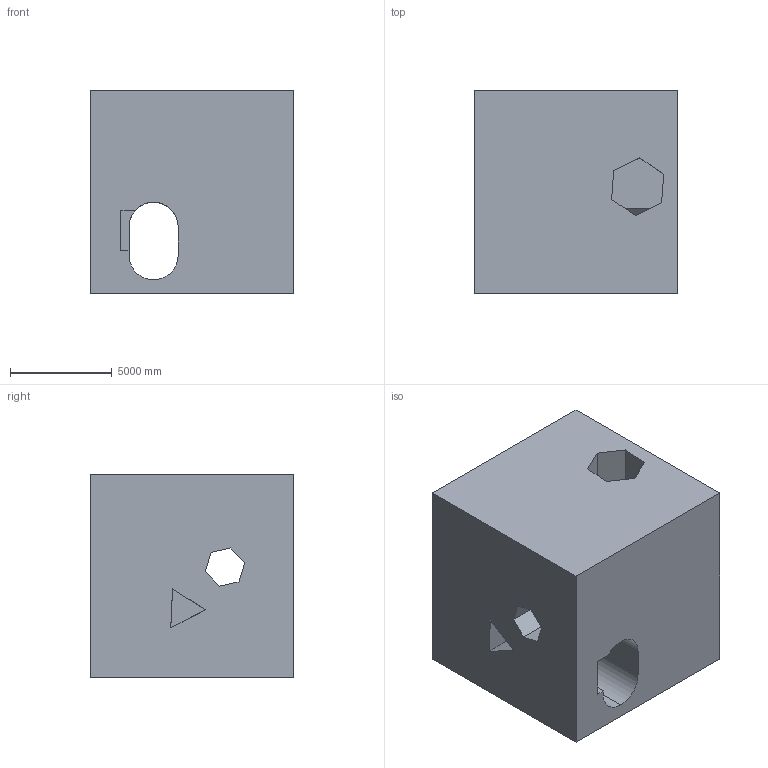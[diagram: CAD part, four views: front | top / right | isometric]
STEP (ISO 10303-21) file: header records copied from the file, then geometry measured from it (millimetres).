
FILE_DESCRIPTION (( 'STEP AP203' ), '1' );
FILE_NAME ('1584.STEP', '2022-08-18T15:57:48', ( 'user' ), ( '' ), 'SwSTEP 2.0', 'SolidWorks 2021', '' );
FILE_SCHEMA (( 'CONFIG_CONTROL_DESIGN' ));
Length unit declared in the file: centimetre
Products named in the file (1): 1584
Bounding box: 10000 x 10000 x 10000 mm (x, y, z)
Volume: 845979312986.1 mm3; surface area: 826482028.8 mm2
Topology: 1 solids, 1 shells, 39 faces, 117 edges, 78 vertices
Faces by surface type: plane 34, cylinder 5
Entity records: 1399 total; most frequent: CARTESIAN_POINT 256, ORIENTED_EDGE 234, DIRECTION 201, EDGE_CURVE 117, VECTOR 99, LINE 99, VERTEX_POINT 78, AXIS2_PLACEMENT_3D 51
